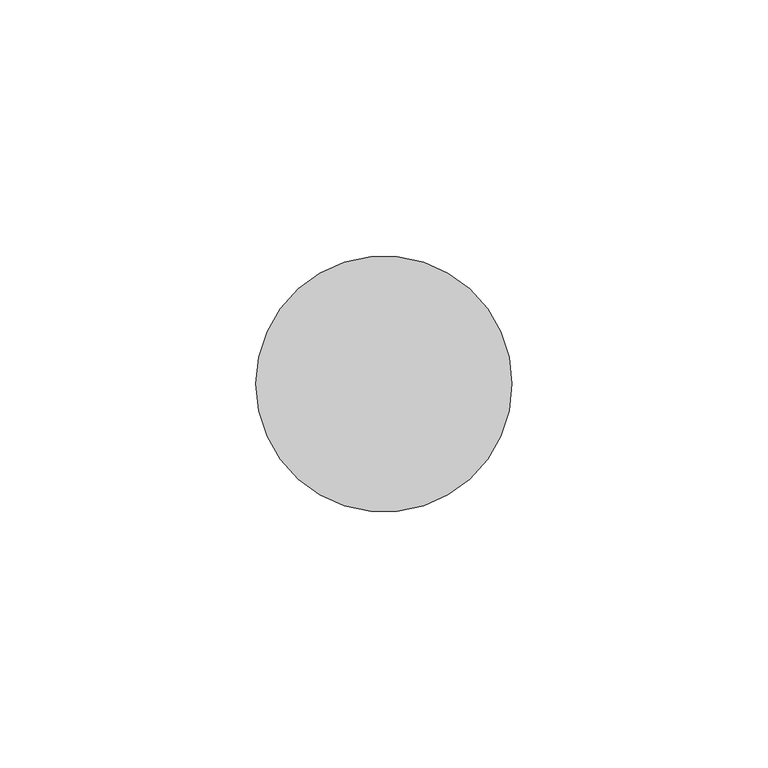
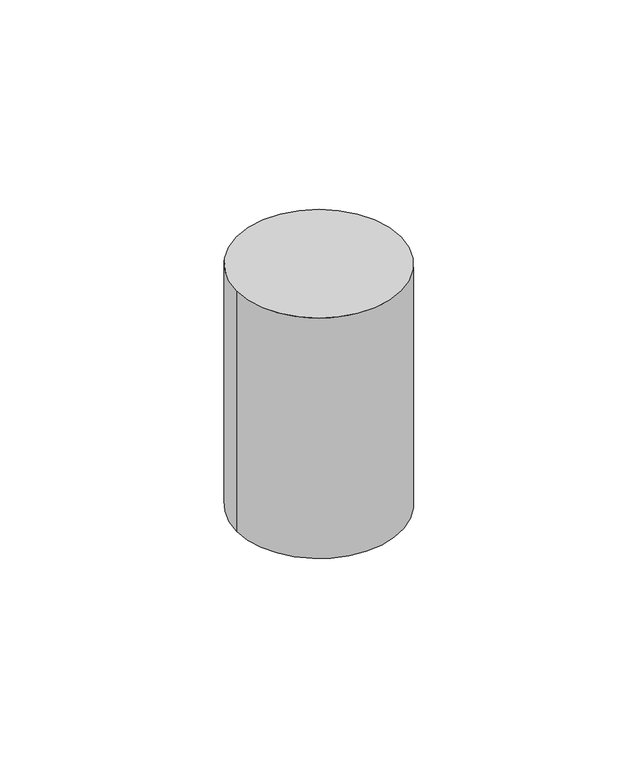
"""IFC4 building model written with IfcOpenShell, lengths in millimetres: member geometry, Импост круглого сечения : Радиус 25мм."""

from ifc_helpers import new_model, si_unit, point, frame, origin, origin_2d, place, context, project, spatial, circle_curve, trimmed, segment, composite_curve, outline, extrude, source, transform, mapped, element, save


def member_26caf756(model_context):
    return source(origin(), model_context, "Body", "SweptSolid", [
        extrude(outline(composite_curve([segment(trimmed(circle_curve(origin_2d(), 25.0), [point((25.0, 0.0))], [point((-25.0, 0.0))], False, "CARTESIAN"), True, "CONTINUOUS"), segment(trimmed(circle_curve(origin_2d(), 25.0), [point((-25.0, 0.0))], [point((25.0, 0.0))], False, "CARTESIAN"), True, "CONTINUOUS")], self_intersect=False)), frame((0.0, 0.0, -77.4004922), z_axis=(0.0, 0.0, 1.0), x_axis=(1.0, 0.0, 0.0)), (0.0, 0.0, 1.0), 77.4004922),
    ])


if __name__ == "__main__":
    model = new_model("IFC4")
    model_context = context("Model", 3, world=origin())
    ifc_project = project(units=[si_unit("LENGTHUNIT", "METRE", prefix="MILLI")], contexts=[model_context])
    site = spatial("IfcSite", under=ifc_project)
    building = spatial("IfcBuilding", under=site)
    placement = place(None, origin())
    member_shape = member_26caf756(model_context)
    element("IfcMember", 1, ObjectType="Импост круглого сечения : Радиус 25мм", at=placement, inside=building, context=model_context, shape_type="MappedRepresentation", body=[
        mapped(member_shape, transform((0.0, 0.0, 0.0), x_axis=(1.0, 0.0, 0.0), y_axis=(0.0, 1.0, 0.0), z_axis=(0.0, 0.0, 1.0))),
    ])
    save(model, "model.ifc")
